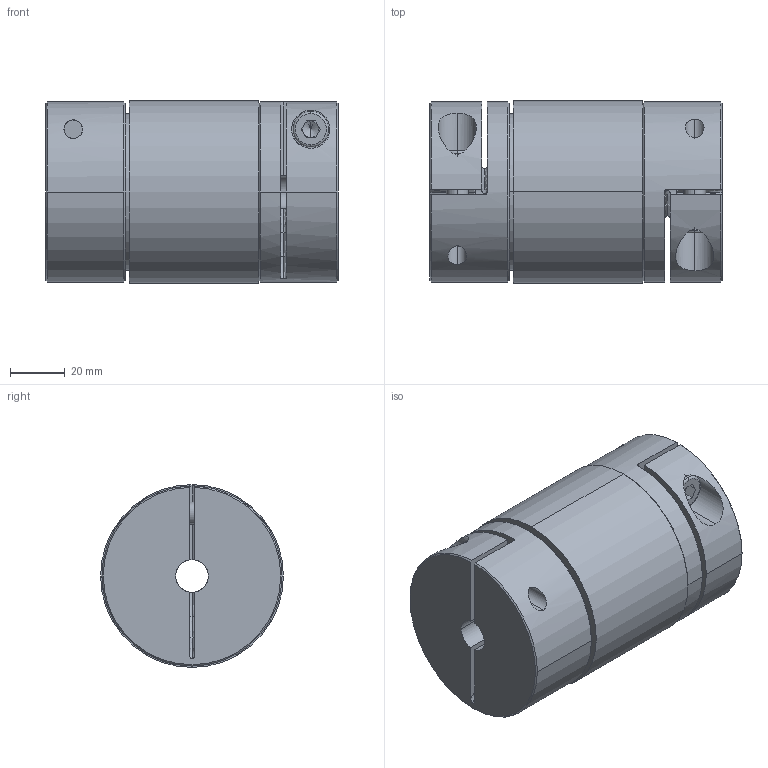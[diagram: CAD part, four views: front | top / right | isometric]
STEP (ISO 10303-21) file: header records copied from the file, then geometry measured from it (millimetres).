
FILE_DESCRIPTION (( 'STEP AP203' ), '1' );
FILE_NAME ('PMK-60.STEP', '2022-08-24T14:35:10', ( '' ), ( '' ), 'SwSTEP 2.0', 'SolidWorks 2019', '' );
FILE_SCHEMA (( 'CONFIG_CONTROL_DESIGN' ));
Length unit declared in the file: millimetre
Products named in the file (5): socket head cap screw 4762_din_EN ISO 4762 M8 x 20 - 20N; PMK-60; PMK-IRO 60_011.00000449.300_Kunde; BNK 60-2G_011.00000292.100_Kunde; PMK-ARO 60_011.00000450.300_Kunde
Assembly tree (6 placements, depth 2):
  PMK-60
    BNK 60-2G_011.00000292.100_Kunde  x2
    PMK-IRO 60_011.00000449.300_Kunde
    PMK-ARO 60_011.00000450.300_Kunde
    socket head cap screw 4762_din_EN ISO 4762 M8 x 20 - 20N  x2
Bounding box: 107 x 67 x 67 mm (x, y, z)
Volume: 284002.7 mm3; surface area: 82056.9 mm2
Topology: 6 solids, 6 shells, 149 faces, 348 edges, 218 vertices
Faces by surface type: plane 59, cylinder 56, cone 18, torus 16
Entity records: 3400 total; most frequent: CARTESIAN_POINT 692, DIRECTION 495, ORIENTED_EDGE 410, AXIS2_PLACEMENT_3D 206, EDGE_CURVE 205, VERTEX_POINT 131, EDGE_LOOP 110, CIRCLE 106
